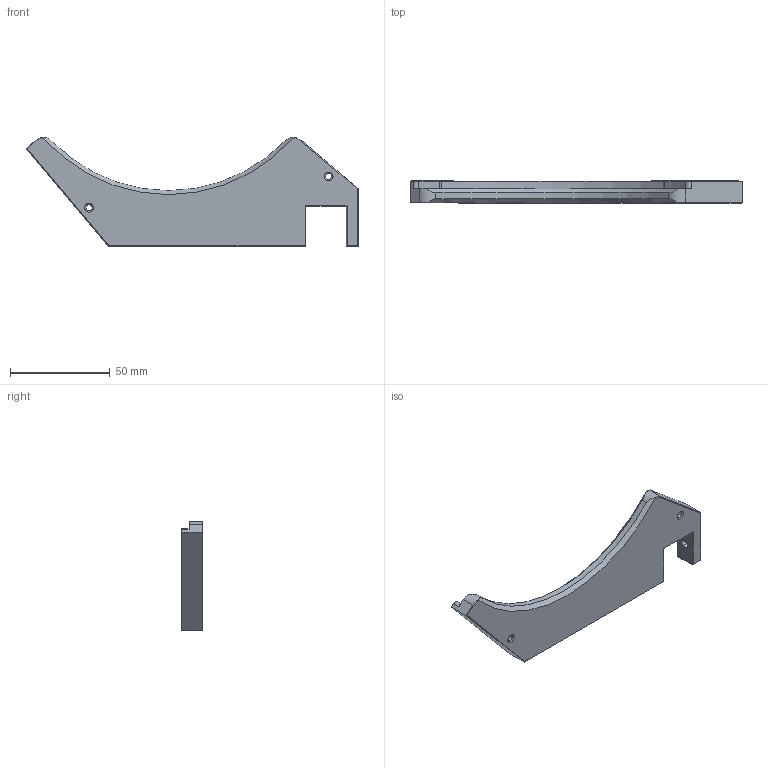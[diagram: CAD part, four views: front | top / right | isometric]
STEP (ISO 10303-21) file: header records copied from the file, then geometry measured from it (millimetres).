
FILE_DESCRIPTION(/* description */ (''),/* implementation_level */ '2;1');
FILE_NAME(/* name */ 'PnP_reel_holder.step',/* time_stamp */ '2026-05-06T23:28:10+08:00',/* author */ (''),/* organization */ (''),/* preprocessor_version */ 'ST-DEVELOPER v20.1',/* originating_system */ 'Autodesk Translation Framework v15.8.0.0',/* authorisation */ '');
FILE_SCHEMA (('AUTOMOTIVE_DESIGN { 1 0 10303 214 3 1 1 }'));
Length unit declared in the file: millimetre
Products named in the file (2): PnP_reel_holder; Component1
Assembly tree (1 placements, depth 2):
  PnP_reel_holder
    Component1
Bounding box: 166.24 x 11 x 54.61 mm (x, y, z)
Volume: 30605.4 mm3; surface area: 17576.1 mm2
Topology: 1 solids, 1 shells, 162 faces, 378 edges, 220 vertices
Faces by surface type: plane 60, cylinder 45, cone 36, bspline 14, torus 7
Full cylindrical faces by diameter (mm): 3.2 x2
Entity records: 4706 total; most frequent: CARTESIAN_POINT 925, DIRECTION 829, ORIENTED_EDGE 756, EDGE_CURVE 378, AXIS2_PLACEMENT_3D 308, VERTEX_POINT 220, LINE 213, VECTOR 213
